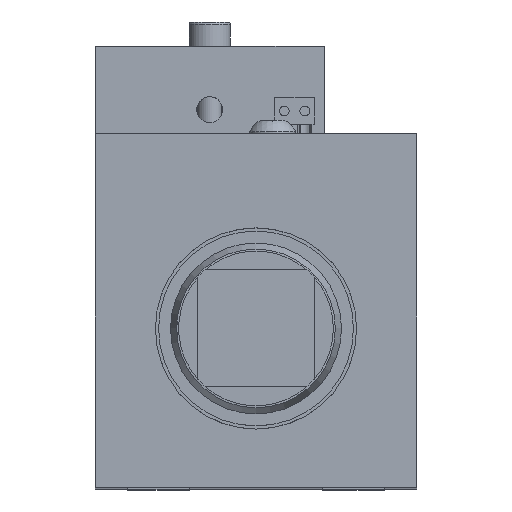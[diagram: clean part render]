
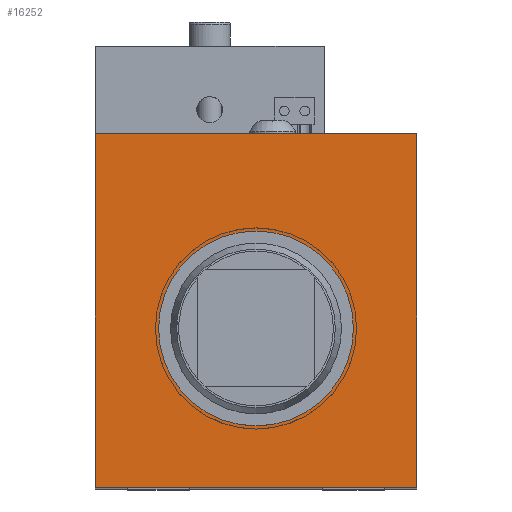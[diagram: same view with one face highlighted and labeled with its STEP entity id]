
A CAD part, top view. The second image highlights one B-rep face of the part: STEP entity #16252.
In plain terms, the highlighted planar face has unit normal (0, 0, 1).
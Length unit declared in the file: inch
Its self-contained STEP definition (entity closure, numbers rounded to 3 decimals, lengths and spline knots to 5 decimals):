
#1822=LINE('',#23963,#2733);
#1825=LINE('',#23977,#2736);
#1826=LINE('',#23979,#2737);
#1827=LINE('',#23980,#2738);
#2733=VECTOR('',#19554,0.3937);
#2736=VECTOR('',#19567,0.3937);
#2737=VECTOR('',#19568,0.3937);
#2738=VECTOR('',#19569,0.3937);
#3570=FACE_BOUND('',#4659,.T.);
#3720=FACE_OUTER_BOUND('',#4658,.T.);
#4658=EDGE_LOOP('',(#10954,#10955,#10956,#10957));
#4659=EDGE_LOOP('',(#10958));
#5699=CIRCLE('',#17686,0.7875);
#6595=VERTEX_POINT('',#23959);
#6597=VERTEX_POINT('',#23962);
#6603=VERTEX_POINT('',#23976);
#6604=VERTEX_POINT('',#23978);
#6605=VERTEX_POINT('',#23981);
#8339=EDGE_CURVE('',#6597,#6595,#1822,.T.);
#8346=EDGE_CURVE('',#6595,#6603,#1825,.T.);
#8347=EDGE_CURVE('',#6603,#6604,#1826,.T.);
#8348=EDGE_CURVE('',#6604,#6597,#1827,.T.);
#8349=EDGE_CURVE('',#6605,#6605,#5699,.T.);
#10954=ORIENTED_EDGE('',*,*,#8339,.T.);
#10955=ORIENTED_EDGE('',*,*,#8346,.T.);
#10956=ORIENTED_EDGE('',*,*,#8347,.T.);
#10957=ORIENTED_EDGE('',*,*,#8348,.T.);
#10958=ORIENTED_EDGE('',*,*,#8349,.T.);
#15919=PLANE('',#17685);
#16252=ADVANCED_FACE('',(#3720,#3570),#15919,.T.);
#17685=AXIS2_PLACEMENT_3D('',#23975,#19565,#19566);
#17686=AXIS2_PLACEMENT_3D('',#23982,#19570,#19571);
#19554=DIRECTION('',(1.,0.,0.));
#19565=DIRECTION('center_axis',(0.,0.,1.));
#19566=DIRECTION('ref_axis',(1.,0.,0.));
#19567=DIRECTION('',(0.,1.,0.));
#19568=DIRECTION('',(-1.,0.,0.));
#19569=DIRECTION('',(0.,-1.,0.));
#19570=DIRECTION('center_axis',(0.,0.,-1.));
#19571=DIRECTION('ref_axis',(-1.,0.,0.));
#23959=CARTESIAN_POINT('',(1.29921,-1.42201,4.635));
#23962=CARTESIAN_POINT('',(-1.29921,-1.42201,4.635));
#23963=CARTESIAN_POINT('',(0.,-1.42201,4.635));
#23975=CARTESIAN_POINT('Origin',(0.,0.,4.635));
#23976=CARTESIAN_POINT('',(1.29921,1.43701,4.635));
#23977=CARTESIAN_POINT('',(1.29921,-1.43701,4.635));
#23978=CARTESIAN_POINT('',(-1.29921,1.43701,4.635));
#23979=CARTESIAN_POINT('',(1.29921,1.43701,4.635));
#23980=CARTESIAN_POINT('',(-1.29921,1.43701,4.635));
#23981=CARTESIAN_POINT('',(0.7875,-0.1378,4.635));
#23982=CARTESIAN_POINT('Origin',(0.,-0.1378,4.635));
